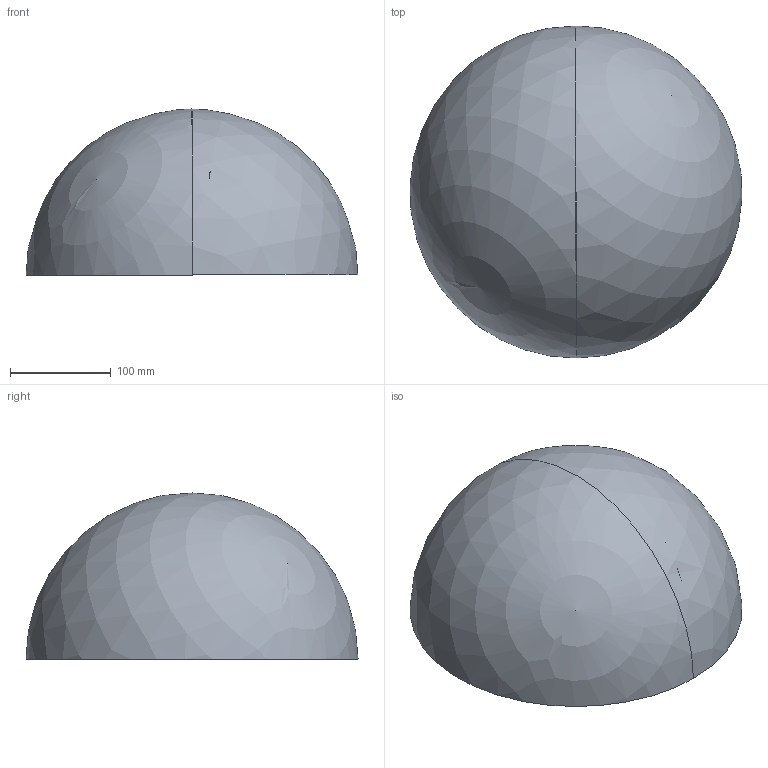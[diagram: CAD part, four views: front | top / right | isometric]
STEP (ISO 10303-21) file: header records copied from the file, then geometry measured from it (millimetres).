
FILE_DESCRIPTION(/* description */ (''),/* implementation_level */ '2;1');
FILE_NAME(/* name */ 'C:/Users/Rasika Jadhav/Downloads/Mission 2 FLoatSat/ass v4.step',/* time_stamp */ '2022-05-16T03:04:44+02:00',/* author */ (''),/* organization */ (''),/* preprocessor_version */ 'ST-DEVELOPER v18.1',/* originating_system */ 'Autodesk Translation Framework v10.14.0.1471',/* authorisation */ '');
FILE_SCHEMA (('AUTOMOTIVE_DESIGN { 1 0 10303 214 3 1 1 }'));
Length unit declared in the file: millimetre
Products named in the file (3): ass; test bed new 1; test bed new
Assembly tree (2 placements, depth 2):
  ass
    test bed new 1
    test bed new
Bounding box: 329.67 x 330 x 165 mm (x, y, z)
Volume: 1070069.8 mm3; surface area: 368748.4 mm2
Topology: 2 solids, 2 shells, 38 faces, 90 edges, 60 vertices
Faces by surface type: sphere 16, cone 12, plane 10
Entity records: 1233 total; most frequent: DIRECTION 236, CARTESIAN_POINT 192, ORIENTED_EDGE 176, AXIS2_PLACEMENT_3D 104, EDGE_CURVE 88, CIRCLE 60, VERTEX_POINT 60, EDGE_LOOP 44
